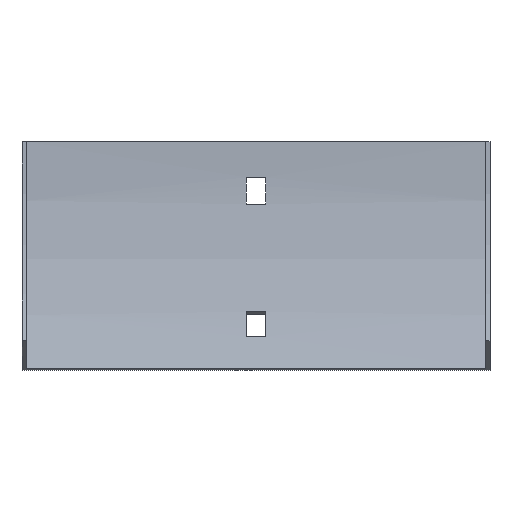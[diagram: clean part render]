
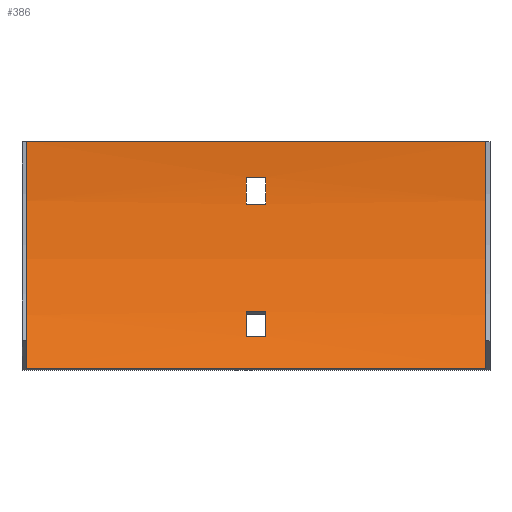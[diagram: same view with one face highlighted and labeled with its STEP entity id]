
A CAD part, front view. The second image highlights one B-rep face of the part: STEP entity #386.
In plain terms, the highlighted cylindrical face has radius 152 mm (diameter 304 mm), a partial arc.
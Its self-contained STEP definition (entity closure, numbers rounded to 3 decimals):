
#31 = AXIS2_PLACEMENT_3D ( 'NONE', #503, #262, #458 ) ;
#33 = EDGE_CURVE ( 'NONE', #474, #443, #436, .T. ) ;
#46 = VERTEX_POINT ( 'NONE', #218 ) ;
#51 = ORIENTED_EDGE ( 'NONE', *, *, #546, .T. ) ;
#57 = CARTESIAN_POINT ( 'NONE',  ( -77., -153.5, 0. ) ) ;
#60 = CARTESIAN_POINT ( 'NONE',  ( 78.5, -2.958, -21. ) ) ;
#62 = VERTEX_POINT ( 'NONE', #464 ) ;
#74 = ORIENTED_EDGE ( 'NONE', *, *, #33, .T. ) ;
#75 = CARTESIAN_POINT ( 'NONE',  ( 77., -153.5, 0. ) ) ;
#83 = DIRECTION ( 'NONE',  ( -1., 0., 0. ) ) ;
#87 = CARTESIAN_POINT ( 'NONE',  ( 78.5, -153.5, 0. ) ) ;
#88 = CARTESIAN_POINT ( 'NONE',  ( -3.25, -2.958, -21. ) ) ;
#104 = ORIENTED_EDGE ( 'NONE', *, *, #526, .T. ) ;
#109 = VECTOR ( 'NONE', #83, 1000. ) ;
#110 = EDGE_LOOP ( 'NONE', ( #438, #157, #342, #571 ) ) ;
#147 = ORIENTED_EDGE ( 'NONE', *, *, #187, .T. ) ;
#150 = VERTEX_POINT ( 'NONE', #529 ) ;
#153 = VECTOR ( 'NONE', #478, 1000. ) ;
#154 = CIRCLE ( 'NONE', #261, 152. ) ;
#157 = ORIENTED_EDGE ( 'NONE', *, *, #457, .F. ) ;
#165 = CARTESIAN_POINT ( 'NONE',  ( 77., -1.5, 0. ) ) ;
#166 = ORIENTED_EDGE ( 'NONE', *, *, #324, .T. ) ;
#174 = VERTEX_POINT ( 'NONE', #282 ) ;
#180 = CARTESIAN_POINT ( 'NONE',  ( 3.25, -2.958, -21. ) ) ;
#184 = CYLINDRICAL_SURFACE ( 'NONE', #512, 152. ) ;
#187 = EDGE_CURVE ( 'NONE', #150, #474, #579, .T. ) ;
#197 = CARTESIAN_POINT ( 'NONE',  ( -77., -1.5, 0. ) ) ;
#199 = FACE_OUTER_BOUND ( 'NONE', #254, .T. ) ;
#202 = DIRECTION ( 'NONE',  ( 0., 0., 1. ) ) ;
#208 = DIRECTION ( 'NONE',  ( 0., 0., 1. ) ) ;
#215 = EDGE_CURVE ( 'NONE', #487, #449, #469, .T. ) ;
#218 = CARTESIAN_POINT ( 'NONE',  ( -77., -21.864, -76. ) ) ;
#225 = FACE_BOUND ( 'NONE', #519, .T. ) ;
#244 = EDGE_CURVE ( 'NONE', #46, #350, #593, .T. ) ;
#249 = CARTESIAN_POINT ( 'NONE',  ( 77., -21.864, -76. ) ) ;
#253 = LINE ( 'NONE', #402, #541 ) ;
#254 = EDGE_LOOP ( 'NONE', ( #256, #420, #51, #528 ) ) ;
#256 = ORIENTED_EDGE ( 'NONE', *, *, #244, .F. ) ;
#257 = EDGE_CURVE ( 'NONE', #286, #46, #584, .T. ) ;
#261 = AXIS2_PLACEMENT_3D ( 'NONE', #556, #319, #463 ) ;
#262 = DIRECTION ( 'NONE',  ( -1., 0., 0. ) ) ;
#266 = DIRECTION ( 'NONE',  ( 0., 0., 1. ) ) ;
#281 = AXIS2_PLACEMENT_3D ( 'NONE', #542, #492, #594 ) ;
#282 = CARTESIAN_POINT ( 'NONE',  ( 77., -1.5, 0. ) ) ;
#286 = VERTEX_POINT ( 'NONE', #483 ) ;
#293 = DIRECTION ( 'NONE',  ( 1., 0., 0. ) ) ;
#316 = VERTEX_POINT ( 'NONE', #412 ) ;
#319 = DIRECTION ( 'NONE',  ( -1., 0., 0. ) ) ;
#321 = AXIS2_PLACEMENT_3D ( 'NONE', #57, #293, #202 ) ;
#324 = EDGE_CURVE ( 'NONE', #443, #316, #253, .T. ) ;
#325 = CARTESIAN_POINT ( 'NONE',  ( 3.25, -12.626, -57.085 ) ) ;
#342 = ORIENTED_EDGE ( 'NONE', *, *, #543, .F. ) ;
#350 = VERTEX_POINT ( 'NONE', #197 ) ;
#358 = DIRECTION ( 'NONE',  ( 1., 0., 0. ) ) ;
#362 = VECTOR ( 'NONE', #389, 1000. ) ;
#374 = LINE ( 'NONE', #507, #502 ) ;
#381 = CARTESIAN_POINT ( 'NONE',  ( -3.25, -153.5, 0. ) ) ;
#385 = CIRCLE ( 'NONE', #281, 152. ) ;
#386 = ADVANCED_FACE ( 'NONE', ( #442, #199, #225 ), #184, .F. ) ;
#389 = DIRECTION ( 'NONE',  ( 1., 0., 0. ) ) ;
#396 = DIRECTION ( 'NONE',  ( -1., 0., 0. ) ) ;
#402 = CARTESIAN_POINT ( 'NONE',  ( 78.5, -16.275, -65.37 ) ) ;
#412 = CARTESIAN_POINT ( 'NONE',  ( -3.25, -16.275, -65.37 ) ) ;
#414 = CIRCLE ( 'NONE', #576, 152. ) ;
#417 = CARTESIAN_POINT ( 'NONE',  ( 3.25, -1.974, -12. ) ) ;
#420 = ORIENTED_EDGE ( 'NONE', *, *, #257, .F. ) ;
#428 = VERTEX_POINT ( 'NONE', #417 ) ;
#436 = CIRCLE ( 'NONE', #31, 152. ) ;
#438 = ORIENTED_EDGE ( 'NONE', *, *, #482, .F. ) ;
#442 = FACE_BOUND ( 'NONE', #110, .T. ) ;
#443 = VERTEX_POINT ( 'NONE', #471 ) ;
#448 = DIRECTION ( 'NONE',  ( -1., 0., 0. ) ) ;
#449 = VERTEX_POINT ( 'NONE', #180 ) ;
#453 = VECTOR ( 'NONE', #448, 1000. ) ;
#457 = EDGE_CURVE ( 'NONE', #428, #62, #374, .T. ) ;
#458 = DIRECTION ( 'NONE',  ( 0., 0., 1. ) ) ;
#463 = DIRECTION ( 'NONE',  ( 0., 0., 1. ) ) ;
#464 = CARTESIAN_POINT ( 'NONE',  ( -3.25, -1.974, -12. ) ) ;
#469 = LINE ( 'NONE', #60, #153 ) ;
#471 = CARTESIAN_POINT ( 'NONE',  ( 3.25, -16.275, -65.37 ) ) ;
#474 = VERTEX_POINT ( 'NONE', #325 ) ;
#475 = DIRECTION ( 'NONE',  ( 0., 0., -1. ) ) ;
#478 = DIRECTION ( 'NONE',  ( 1., 0., 0. ) ) ;
#482 = EDGE_CURVE ( 'NONE', #62, #487, #154, .T. ) ;
#483 = CARTESIAN_POINT ( 'NONE',  ( 77., -21.864, -76. ) ) ;
#487 = VERTEX_POINT ( 'NONE', #88 ) ;
#492 = DIRECTION ( 'NONE',  ( 1., 0., 0. ) ) ;
#502 = VECTOR ( 'NONE', #559, 1000. ) ;
#503 = CARTESIAN_POINT ( 'NONE',  ( 3.25, -153.5, 0. ) ) ;
#507 = CARTESIAN_POINT ( 'NONE',  ( 78.5, -1.974, -12. ) ) ;
#512 = AXIS2_PLACEMENT_3D ( 'NONE', #87, #520, #266 ) ;
#519 = EDGE_LOOP ( 'NONE', ( #166, #104, #147, #74 ) ) ;
#520 = DIRECTION ( 'NONE',  ( -1., 0., 0. ) ) ;
#526 = EDGE_CURVE ( 'NONE', #316, #150, #583, .T. ) ;
#528 = ORIENTED_EDGE ( 'NONE', *, *, #595, .T. ) ;
#529 = CARTESIAN_POINT ( 'NONE',  ( -3.25, -12.626, -57.085 ) ) ;
#541 = VECTOR ( 'NONE', #396, 1000. ) ;
#542 = CARTESIAN_POINT ( 'NONE',  ( 3.25, -153.5, 0. ) ) ;
#543 = EDGE_CURVE ( 'NONE', #449, #428, #385, .T. ) ;
#546 = EDGE_CURVE ( 'NONE', #286, #174, #414, .T. ) ;
#556 = CARTESIAN_POINT ( 'NONE',  ( -3.25, -153.5, 0. ) ) ;
#559 = DIRECTION ( 'NONE',  ( -1., 0., 0. ) ) ;
#561 = AXIS2_PLACEMENT_3D ( 'NONE', #381, #572, #475 ) ;
#571 = ORIENTED_EDGE ( 'NONE', *, *, #215, .F. ) ;
#572 = DIRECTION ( 'NONE',  ( 1., 0., 0. ) ) ;
#573 = CARTESIAN_POINT ( 'NONE',  ( 78.5, -12.626, -57.085 ) ) ;
#576 = AXIS2_PLACEMENT_3D ( 'NONE', #75, #358, #208 ) ;
#579 = LINE ( 'NONE', #573, #362 ) ;
#583 = CIRCLE ( 'NONE', #561, 152. ) ;
#584 = LINE ( 'NONE', #249, #453 ) ;
#590 = LINE ( 'NONE', #165, #109 ) ;
#593 = CIRCLE ( 'NONE', #321, 152. ) ;
#594 = DIRECTION ( 'NONE',  ( 0., 0., -1. ) ) ;
#595 = EDGE_CURVE ( 'NONE', #174, #350, #590, .T. ) ;
